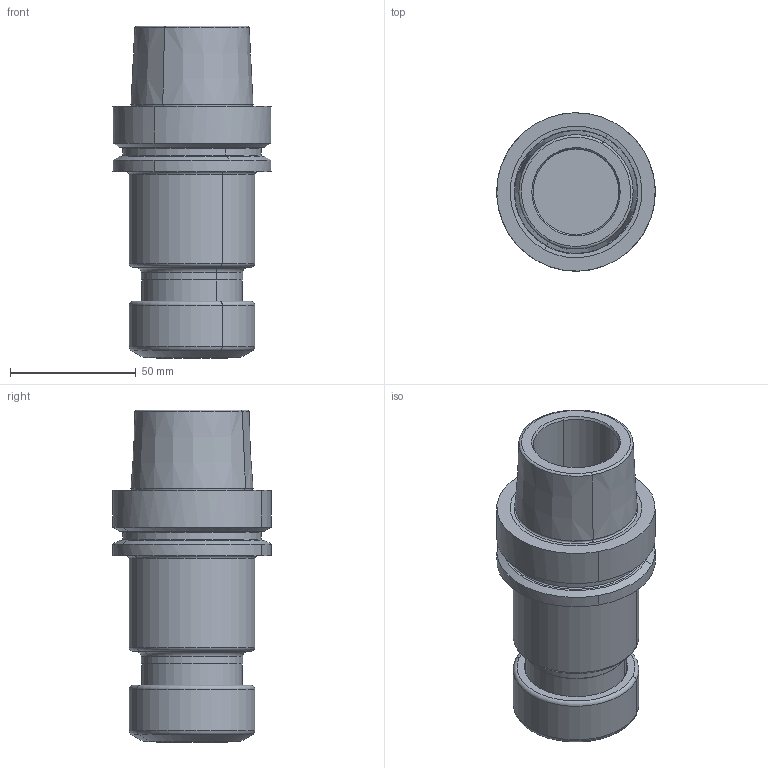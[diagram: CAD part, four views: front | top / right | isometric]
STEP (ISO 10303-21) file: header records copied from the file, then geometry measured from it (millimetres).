
FILE_DESCRIPTION(('CATIA V5 STEP','CAx-IF Rec.Pracs.--- Model Styling and Organization---1.2---2011-12-15'),'2;1');
FILE_NAME('\\nas01\drv1\utils\eitdev\rte\eit\transmagicconvert\db\out\635935621395303019\4504506 L.stp','2016-03-14T12:22:34+00:00',('none'),('none'),'CATIA Version 5 Release 21 SP 5 (IN-10)','CATIA V5 STEP AP214','none');
FILE_SCHEMA(('AUTOMOTIVE_DESIGN { 1 0 10303 214 1 1 1 1 }'));
Length unit declared in the file: millimetre
Products named in the file (1): HSK E 63 ER32X100
Bounding box: 62.98 x 63 x 132.03 mm (x, y, z)
Volume: 200293.7 mm3; surface area: 37125.8 mm2
Topology: 1 solids, 1 shells, 73 faces, 154 edges, 92 vertices
Faces by surface type: cylinder 22, cone 20, torus 20, plane 11
Entity records: 1772 total; most frequent: CARTESIAN_POINT 319, ORIENTED_EDGE 308, DIRECTION 240, AXIS2_PLACEMENT_3D 155, EDGE_CURVE 154, CIRCLE 110, VERTEX_POINT 92, EDGE_LOOP 82
